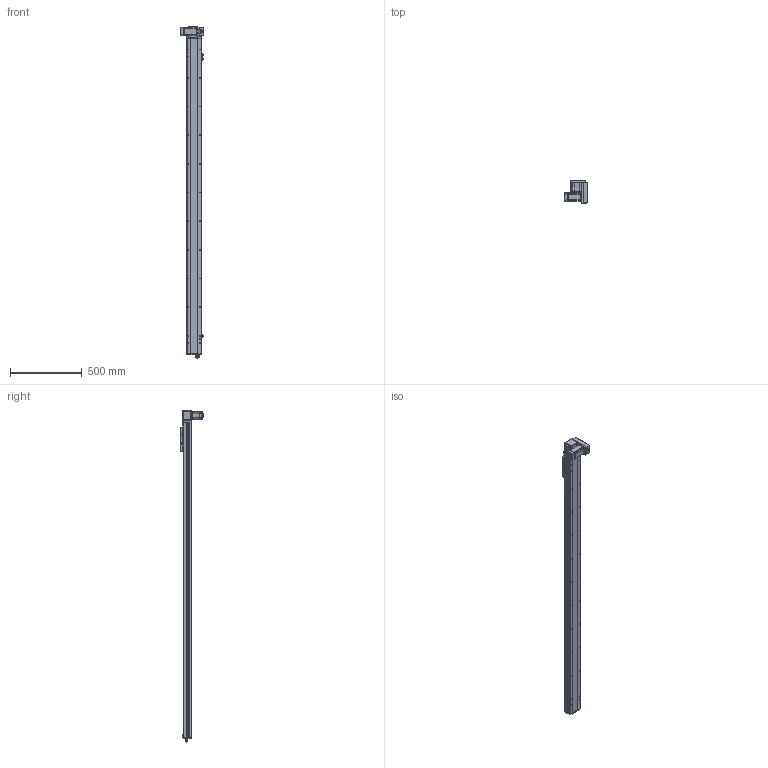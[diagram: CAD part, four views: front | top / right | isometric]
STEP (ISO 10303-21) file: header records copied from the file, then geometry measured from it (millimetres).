
FILE_DESCRIPTION (( 'STEP AP214' ), '1' );
FILE_NAME ('TPE10-L41.6-1950-RD-P20-C4.STEP', '2023-03-13T02:26:09', ( '' ), ( '' ), 'SwSTEP 2.0', 'SolidWorks 2020', '' );
FILE_SCHEMA (( 'AUTOMOTIVE_DESIGN' ));
Length unit declared in the file: millimetre
Products named in the file (16): 葩璃 TPE10 賑雄殤 TPE10^TPE10-L41.6-RD-P20-C4; 葩璃 TPE10-L-002 耜裔ZTMT-102B-04^TPE10-L41.6-RD-P20-C4; 葩璃 TPT10-L-009 萇儂啣^TPE10-L41.6-RD-P20-C4_200W; 葩璃 詩湍75^TPE10-L41.6-RD-P20-C4; 葩璃 侂狟100W^TPE10-L41.6-RD-P20-C4; 葩璃 TPE10-L-001 菁釱MZ-102A-01^TPE10-L41.6-RD-P20-C4; 葩璃 PL8-02^TPE10-L41.6-RD-P20-C4; 葩璃 侂狟400W^TPE10-L41.6-RD-P20-C4; 葩璃 pm-t65-672^TPE10-L41.6-RD-P20-C4; TPE10-L41.6-1950-RD-P20-C4; 葩璃 TPE10-007 々湍釱MZ-169x88^TPE10-L41.6-RD-P20-C4; hexagon head bolts-full thread gb_GB_FASTENER_BOLT_STBAB A M5X16-N; hexagon socket head cap screws gb_GB_FASTENER_SCREWS_HSHCS M3X6-N; 葩璃 TPF10-L-008 耜醱啣^TPE10-L41.6-RD-P20-C4; hex nuts, style 1-grades ab gb_GB_FASTENER_NUT_SNAB1 M3-N; 葩璃 TPF10 詩湍揤啣 TPF10 12^TPE10-L41.6-RD-P20-C4
Assembly tree (29 placements, depth 2):
  TPE10-L41.6-1950-RD-P20-C4
    葩璃 TPE10-L-001 菁釱MZ-102A-01^TPE10-L41.6-RD-P20-C4
    葩璃 TPE10-L-002 耜裔ZTMT-102B-04^TPE10-L41.6-RD-P20-C4  x2
    葩璃 詩湍75^TPE10-L41.6-RD-P20-C4
    葩璃 TPE10-007 々湍釱MZ-169x88^TPE10-L41.6-RD-P20-C4
    葩璃 TPF10-L-008 耜醱啣^TPE10-L41.6-RD-P20-C4
    葩璃 TPE10 賑雄殤 TPE10^TPE10-L41.6-RD-P20-C4
    葩璃 TPF10 詩湍揤啣 TPF10 12^TPE10-L41.6-RD-P20-C4  x2
    葩璃 TPT10-L-009 萇儂啣^TPE10-L41.6-RD-P20-C4_200W
    葩璃 pm-t65-672^TPE10-L41.6-RD-P20-C4  x3
    葩璃 PL8-02^TPE10-L41.6-RD-P20-C4
    葩璃 侂狟100W^TPE10-L41.6-RD-P20-C4
    葩璃 侂狟400W^TPE10-L41.6-RD-P20-C4
    hexagon socket head cap screws gb_GB_FASTENER_SCREWS_HSHCS M3X6-N  x6
    hex nuts, style 1-grades ab gb_GB_FASTENER_NUT_SNAB1 M3-N  x6
    hexagon head bolts-full thread gb_GB_FASTENER_BOLT_STBAB A M5X16-N
Bounding box: 162.5 x 162.15 x 2318.35 mm (x, y, z)
Volume: 7456500.7 mm3; surface area: 1813750 mm2
Topology: 37 solids, 37 shells, 2077 faces, 5321 edges, 3364 vertices
Faces by surface type: plane 1106, cylinder 661, cone 240, bspline 42, torus 26, sphere 2
Entity records: 52224 total; most frequent: CARTESIAN_POINT 10690, DIRECTION 8384, ORIENTED_EDGE 8034, EDGE_CURVE 4017, AXIS2_PLACEMENT_3D 2956, VERTEX_POINT 2591, LINE 2472, VECTOR 2472
